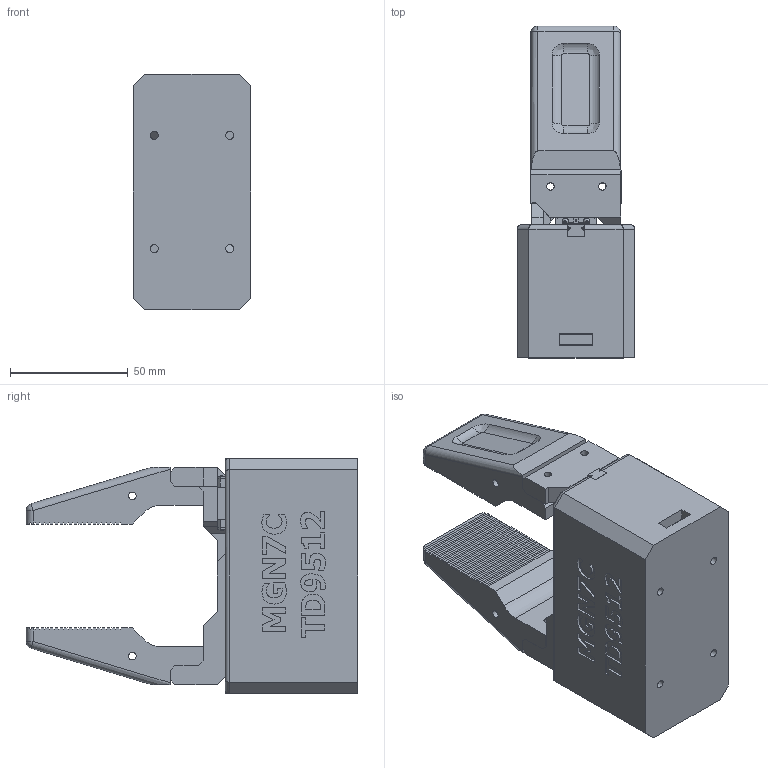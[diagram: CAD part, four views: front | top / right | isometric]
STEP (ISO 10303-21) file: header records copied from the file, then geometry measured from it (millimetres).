
FILE_DESCRIPTION(/* description */ ('STEP AP203'),/* implementation_level */ '2;1');
FILE_NAME(/* name */ 'gripper MGN7 with rail TD9512.stp',/* time_stamp */ '2025-12-16T11:30:29+01:00',/* author */ ('Ryzen5700u'),/* organization */ (''),/* preprocessor_version */ 'ST-DEVELOPER v20',/* originating_system */ 'Autodesk Inventor 2025',/* authorisation */ '');
FILE_SCHEMA (('AUTOMOTIVE_DESIGN { 1 0 10303 214 3 1 1 }'));
Length unit declared in the file: millimetre
Products named in the file (11): MGN7 with rail; MGN7 rail_100 mm; MGN7C_MGN7C; pignone; cremagliera; cremagliera2; TD-9512MG; disco_servo; dito2; dito2_MIR; base_servo2
Assembly tree (11 placements, depth 2):
  MGN7 with rail
    MGN7 rail_100 mm
    MGN7C_MGN7C  x2
    pignone
    cremagliera
    cremagliera2
    TD-9512MG
    disco_servo
    dito2
    dito2_MIR
    base_servo2
Bounding box: 50 x 140.6 x 100 mm (x, y, z)
Volume: 247015.5 mm3; surface area: 97850.4 mm2
Topology: 29 solids, 30 shells, 1649 faces, 4410 edges, 2858 vertices
Faces by surface type: plane 1019, cylinder 374, bspline 131, sphere 71, cone 38, torus 16
Full cylindrical faces by diameter (mm): 0.8 x8, 1.6 x8, 2.4 x7, 2.459 x1, 2.5 x4, 2.659 x8, 2.7 x8, 2.9 x2, 3 x4, 3.2 x16, 3.4 x4, 4 x8, 4.2 x7, 4.901 x1, 5.5 x9, 5.6 x6, 6.2 x1, 6.5 x1, 10 x1, 10.6 x1, 19.2 x1, 24 x1
Entity records: 47982 total; most frequent: CARTESIAN_POINT 12531, ORIENTED_EDGE 7440, DIRECTION 6837, EDGE_CURVE 3721, LINE 2535, VECTOR 2535, VERTEX_POINT 2405, AXIS2_PLACEMENT_3D 2151
